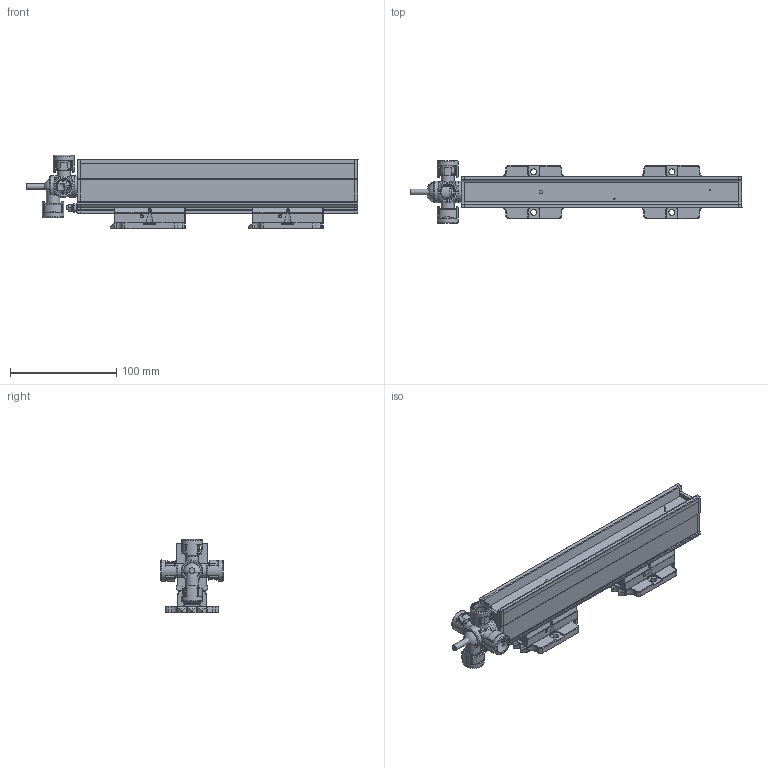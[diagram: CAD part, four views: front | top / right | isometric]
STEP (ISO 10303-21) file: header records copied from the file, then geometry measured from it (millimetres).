
FILE_DESCRIPTION(/* description */ (''),/* implementation_level */ '2;1');
FILE_NAME(/* name */ 'PERFORMAXEASYEX_0090_3D_GB',/* time_stamp */ '2017-05-31T09:43:50+02:00',/* author */ (''),/* organization */ (''),/* preprocessor_version */ 'ST-DEVELOPER v15.7',/* originating_system */ 'HiCAD 2015 2002.1 Build 408',/* authorisation */ '');
FILE_SCHEMA (('AUTOMOTIVE_DESIGN { 1 0 10303 214 1 1 1 1 }'));
Products named in the file (57): Root; -_Performax (IQ) Easy Ex 0090 eff (Speed); -_LED; -_PROFILE; -_POTTING; -_CAP DE; -_CAP CE; -_CABLE; -_PIN; -_COVER; 4532000100_Mounting bracket bars; -_Side piece; -_Slide piece; -_Bracket small; DIN 13-M3; DIN 76-M3; 2047493713_Cable exits; -_Exit K; -_Clip; -_Gland body; -_Exit S; -_Exit Q; -_Washer ø20mm, 5mm thick for corr. conduit (exit
 Q); -_Exit I; -_Exit U; -_Exit A; Thread_2; 2047507823_PE connection; DIN 916-M4x20-45H_Set screws; GEWINDE; ISO 8738-4-160 HV_Washers for studs; ISO 4032-M4-10_Hexagon nuts; DIN 127-A 4-FSt_Washers
Assembly tree (56 placements, depth 5):
  Root
    -_Performax (IQ) Easy Ex 0090 eff (Speed)
      -_LED
      -_PROFILE
      -_POTTING
      -_CAP DE
      -_CAP CE
      -_CABLE
      -_PIN
      -_PIN
      -_COVER
      4532000100_Mounting bracket bars
        -_Side piece
        -_Side piece
        -_Slide piece
        -_Bracket small
          DIN 13-M3
          DIN 13-M3
          DIN 76-M3
          DIN 76-M3
      4532000100_Mounting bracket bars
        -_Side piece
        -_Side piece
        -_Slide piece
        -_Bracket small
          DIN 13-M3
          DIN 13-M3
          DIN 76-M3
          DIN 76-M3
      2047493713_Cable exits
        -_Exit K
          -_Clip
          -_Gland body
        -_Exit S
          -_Clip
          -_Gland body
        -_Exit Q
          -_Clip
          -_Washer ø20mm, 5mm thick for corr. conduit (exit
 Q)
          -_Gland body
        -_Exit I
          -_Clip
          -_Gland body
        -_Exit U
          -_Clip
          -_Gland body
        -_Exit A
          Thread_2
      2047507823_PE connection
        DIN 916-M4x20-45H_Set screws
          GEWINDE
        ISO 8738-4-160 HV_Washers for studs
        ISO 4032-M4-10_Hexagon nuts
          GEWINDE
        DIN 127-A 4-FSt_Washers
        ISO 4032-M4-10_Hexagon nuts
          GEWINDE
Bounding box: 312.4 x 58.79 x 68.9 mm (x, y, z)
Volume: 407319.4 mm3; surface area: 157151.5 mm2
Topology: 47 solids, 53 shells, 1941 faces, 5010 edges, 3074 vertices
Faces by surface type: plane 913, cylinder 739, torus 91, sphere 87, bspline 64, cone 47
Full cylindrical faces by diameter (mm): 2.387 x8, 3 x16, 3.141 x4, 4 x5, 4.3 x1, 5.4 x2, 5.5 x10, 8 x2, 11.3 x4, 12.5 x4, 13 x1, 14.6 x5, 15.1 x5, 18.4 x4, 20 x7, 20.2 x4
Entity records: 107117 total; most frequent: CARTESIAN_POINT 22020, DIRECTION 10074, PRESENTATION_STYLE_ASSIGNMENT 9495, OVER_RIDING_STYLED_ITEM 9449, DRAUGHTING_PRE_DEFINED_CURVE_FONT 9436, CURVE_STYLE 9436, ORIENTED_EDGE 9436, EDGE_CURVE 4718
